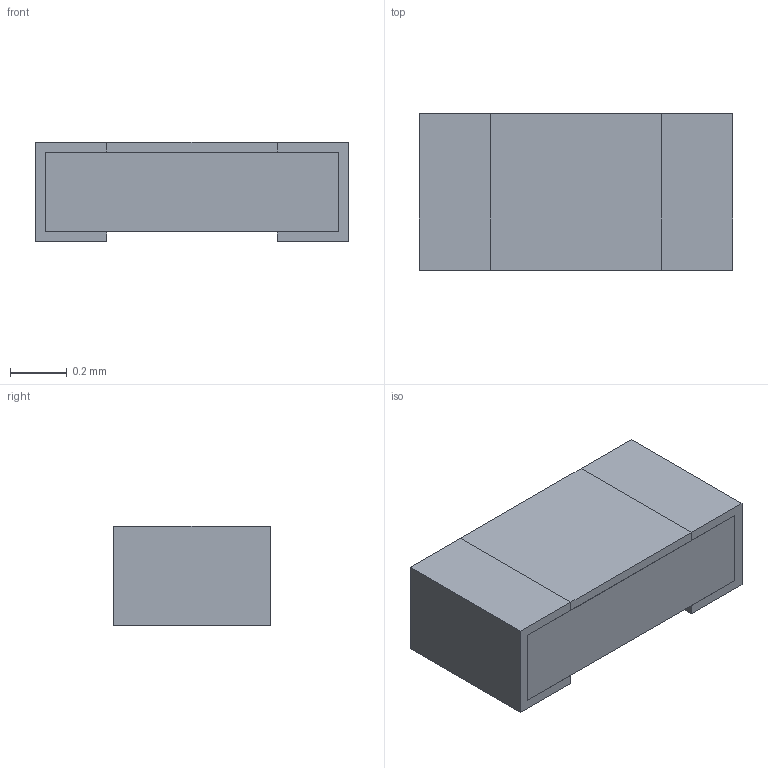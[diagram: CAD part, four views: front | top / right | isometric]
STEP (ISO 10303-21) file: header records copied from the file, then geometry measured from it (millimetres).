
FILE_DESCRIPTION(('Open CASCADE Model'),'2;1');
FILE_NAME('Open CASCADE Shape Model','2019-05-11T10:25:04',('Author'),( 'Open CASCADE'),'Open CASCADE STEP processor 6.8','Open CASCADE 6.8' ,'Unknown');
FILE_SCHEMA(('AUTOMOTIVE_DESIGN_CC2 { 1 2 10303 214 -1 1 5 4 }'));
Length unit declared in the file: millimetre
Products named in the file (5): RESC1005X03N.step; Mid_Body; Terminal; Open CASCADE STEP translator 6.8 23.2.1; Mark
Assembly tree (5 placements, depth 3):
  RESC1005X03N.step
    Mid_Body
    Terminal  x2
      Open CASCADE STEP translator 6.8 23.2.1
    Mark
Bounding box: 1.1 x 0.55 x 0.35 mm (x, y, z)
Volume: 0.2 mm3; surface area: 4.7 mm2
Topology: 4 solids, 4 shells, 32 faces, 72 edges, 48 vertices
Faces by surface type: plane 32
Entity records: 1331 total; most frequent: CARTESIAN_POINT 208, DIRECTION 196, LINE 140, VECTOR 140, ORIENTED_EDGE 96, PCURVE 96, DEFINITIONAL_REPRESENTATION 96, EDGE_CURVE 48
